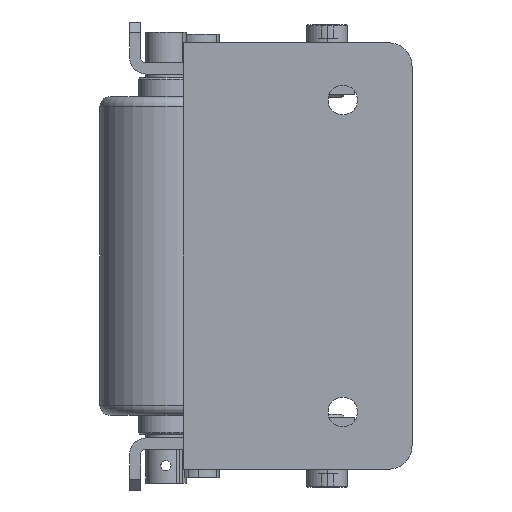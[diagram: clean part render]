
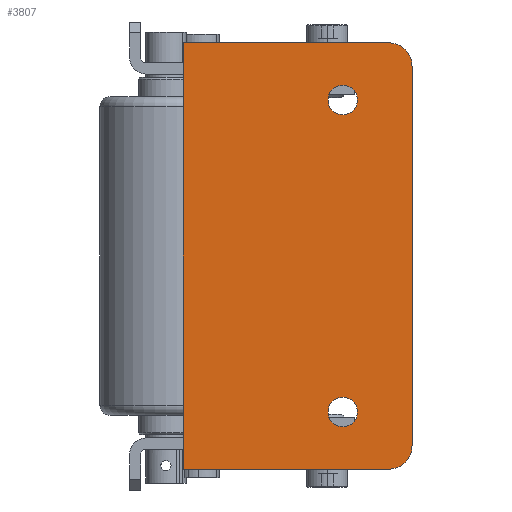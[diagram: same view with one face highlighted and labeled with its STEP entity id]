
A CAD part, left-side view. The second image highlights one B-rep face of the part: STEP entity #3807.
In plain terms, the highlighted planar face has unit normal (-1, 0, 0).
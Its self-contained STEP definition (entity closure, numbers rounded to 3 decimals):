
#3 = CARTESIAN_POINT ( 'NONE',  ( -6., -13., -49.25 ) ) ;
#153 = VECTOR ( 'NONE', #4195, 1000. ) ;
#204 = PLANE ( 'NONE',  #3165 ) ;
#212 = CARTESIAN_POINT ( 'NONE',  ( -6., -33., 54.7 ) ) ;
#453 = EDGE_CURVE ( 'NONE', #5306, #8874, #5450, .T. ) ;
#547 = EDGE_CURVE ( 'NONE', #691, #2214, #1849, .T. ) ;
#586 = VECTOR ( 'NONE', #8372, 1000. ) ;
#601 = AXIS2_PLACEMENT_3D ( 'NONE', #3703, #10697, #4681 ) ;
#691 = VERTEX_POINT ( 'NONE', #7207 ) ;
#1162 = CARTESIAN_POINT ( 'NONE',  ( -6., 0., 0. ) ) ;
#1203 = DIRECTION ( 'NONE',  ( -1., 0., 0. ) ) ;
#1785 = CIRCLE ( 'NONE', #8970, 4.25 ) ;
#1849 = CIRCLE ( 'NONE', #601, 6.8 ) ;
#1939 = LINE ( 'NONE', #6425, #4603 ) ;
#2055 = DIRECTION ( 'NONE',  ( 1., 0., 0. ) ) ;
#2214 = VERTEX_POINT ( 'NONE', #9587 ) ;
#2557 = CARTESIAN_POINT ( 'NONE',  ( -6., -26.2, 61.5 ) ) ;
#2758 = CIRCLE ( 'NONE', #5008, 4.25 ) ;
#2796 = FACE_BOUND ( 'NONE', #12712, .T. ) ;
#3067 = VERTEX_POINT ( 'NONE', #2557 ) ;
#3165 = AXIS2_PLACEMENT_3D ( 'NONE', #1162, #1203, #8191 ) ;
#3190 = VERTEX_POINT ( 'NONE', #3 ) ;
#3360 = CARTESIAN_POINT ( 'NONE',  ( -6., -13., -40.75 ) ) ;
#3548 = LINE ( 'NONE', #7346, #586 ) ;
#3633 = EDGE_CURVE ( 'NONE', #8874, #5306, #7323, .T. ) ;
#3703 = CARTESIAN_POINT ( 'NONE',  ( -6., -26.2, -54.7 ) ) ;
#3787 = CARTESIAN_POINT ( 'NONE',  ( -6., 33., 61.5 ) ) ;
#3807 = ADVANCED_FACE ( 'NONE', ( #2796, #10781, #8436 ), #204, .T. ) ;
#3811 = EDGE_CURVE ( 'NONE', #5215, #691, #7807, .T. ) ;
#4084 = AXIS2_PLACEMENT_3D ( 'NONE', #5906, #12904, #6916 ) ;
#4195 = DIRECTION ( 'NONE',  ( 0., 0., -1. ) ) ;
#4531 = EDGE_CURVE ( 'NONE', #6922, #4976, #1939, .T. ) ;
#4559 = DIRECTION ( 'NONE',  ( 1., 0., 0. ) ) ;
#4603 = VECTOR ( 'NONE', #12409, 1000. ) ;
#4623 = ORIENTED_EDGE ( 'NONE', *, *, #453, .T. ) ;
#4681 = DIRECTION ( 'NONE',  ( 0., 0., -1. ) ) ;
#4729 = DIRECTION ( 'NONE',  ( 1., 0., 0. ) ) ;
#4976 = VERTEX_POINT ( 'NONE', #3787 ) ;
#5008 = AXIS2_PLACEMENT_3D ( 'NONE', #8069, #2055, #9069 ) ;
#5088 = VECTOR ( 'NONE', #7589, 1000. ) ;
#5127 = EDGE_CURVE ( 'NONE', #3190, #7969, #2758, .T. ) ;
#5215 = VERTEX_POINT ( 'NONE', #212 ) ;
#5306 = VERTEX_POINT ( 'NONE', #9322 ) ;
#5335 = EDGE_CURVE ( 'NONE', #2214, #6922, #3548, .T. ) ;
#5450 = CIRCLE ( 'NONE', #10887, 4.25 ) ;
#5541 = CARTESIAN_POINT ( 'NONE',  ( -6., -13., 40.75 ) ) ;
#5563 = CARTESIAN_POINT ( 'NONE',  ( -6., 33., 61.5 ) ) ;
#5898 = CARTESIAN_POINT ( 'NONE',  ( -6., -13., -45. ) ) ;
#5906 = CARTESIAN_POINT ( 'NONE',  ( -6., -13., 45. ) ) ;
#5937 = ORIENTED_EDGE ( 'NONE', *, *, #5966, .T. ) ;
#5966 = EDGE_CURVE ( 'NONE', #7969, #3190, #1785, .T. ) ;
#6425 = CARTESIAN_POINT ( 'NONE',  ( -6., 33., 61.5 ) ) ;
#6621 = AXIS2_PLACEMENT_3D ( 'NONE', #10737, #4729, #11737 ) ;
#6674 = EDGE_CURVE ( 'NONE', #4976, #3067, #10109, .T. ) ;
#6732 = EDGE_CURVE ( 'NONE', #3067, #5215, #8548, .T. ) ;
#6912 = DIRECTION ( 'NONE',  ( 0., 0., -1. ) ) ;
#6916 = DIRECTION ( 'NONE',  ( 0., 0., -1. ) ) ;
#6922 = VERTEX_POINT ( 'NONE', #9690 ) ;
#7074 = EDGE_LOOP ( 'NONE', ( #9178, #5937 ) ) ;
#7207 = CARTESIAN_POINT ( 'NONE',  ( -6., -33., -54.7 ) ) ;
#7323 = CIRCLE ( 'NONE', #4084, 4.25 ) ;
#7346 = CARTESIAN_POINT ( 'NONE',  ( -6., 33., -61.5 ) ) ;
#7589 = DIRECTION ( 'NONE',  ( 0., -1., 0. ) ) ;
#7751 = ORIENTED_EDGE ( 'NONE', *, *, #3811, .F. ) ;
#7807 = LINE ( 'NONE', #10196, #153 ) ;
#7815 = EDGE_LOOP ( 'NONE', ( #7960, #9326, #9914, #9084, #7751, #9713 ) ) ;
#7960 = ORIENTED_EDGE ( 'NONE', *, *, #6674, .F. ) ;
#7969 = VERTEX_POINT ( 'NONE', #3360 ) ;
#8069 = CARTESIAN_POINT ( 'NONE',  ( -6., -13., -45. ) ) ;
#8191 = DIRECTION ( 'NONE',  ( 0., 0., -1. ) ) ;
#8372 = DIRECTION ( 'NONE',  ( 0., 1., 0. ) ) ;
#8436 = FACE_OUTER_BOUND ( 'NONE', #7815, .T. ) ;
#8548 = CIRCLE ( 'NONE', #6621, 6.8 ) ;
#8874 = VERTEX_POINT ( 'NONE', #5541 ) ;
#8970 = AXIS2_PLACEMENT_3D ( 'NONE', #5898, #12899, #6912 ) ;
#9069 = DIRECTION ( 'NONE',  ( 0., 0., -1. ) ) ;
#9084 = ORIENTED_EDGE ( 'NONE', *, *, #547, .F. ) ;
#9178 = ORIENTED_EDGE ( 'NONE', *, *, #5127, .T. ) ;
#9322 = CARTESIAN_POINT ( 'NONE',  ( -6., -13., 49.25 ) ) ;
#9326 = ORIENTED_EDGE ( 'NONE', *, *, #4531, .F. ) ;
#9587 = CARTESIAN_POINT ( 'NONE',  ( -6., -26.2, -61.5 ) ) ;
#9690 = CARTESIAN_POINT ( 'NONE',  ( -6., 33., -61.5 ) ) ;
#9713 = ORIENTED_EDGE ( 'NONE', *, *, #6732, .F. ) ;
#9914 = ORIENTED_EDGE ( 'NONE', *, *, #5335, .F. ) ;
#10109 = LINE ( 'NONE', #5563, #5088 ) ;
#10196 = CARTESIAN_POINT ( 'NONE',  ( -6., -33., 61.5 ) ) ;
#10563 = CARTESIAN_POINT ( 'NONE',  ( -6., -13., 45. ) ) ;
#10642 = ORIENTED_EDGE ( 'NONE', *, *, #3633, .T. ) ;
#10697 = DIRECTION ( 'NONE',  ( 1., 0., 0. ) ) ;
#10737 = CARTESIAN_POINT ( 'NONE',  ( -6., -26.2, 54.7 ) ) ;
#10781 = FACE_BOUND ( 'NONE', #7074, .T. ) ;
#10887 = AXIS2_PLACEMENT_3D ( 'NONE', #10563, #4559, #11569 ) ;
#11569 = DIRECTION ( 'NONE',  ( 0., 0., -1. ) ) ;
#11737 = DIRECTION ( 'NONE',  ( 0., 0., -1. ) ) ;
#12409 = DIRECTION ( 'NONE',  ( 0., 0., 1. ) ) ;
#12712 = EDGE_LOOP ( 'NONE', ( #10642, #4623 ) ) ;
#12899 = DIRECTION ( 'NONE',  ( 1., 0., 0. ) ) ;
#12904 = DIRECTION ( 'NONE',  ( 1., 0., 0. ) ) ;
